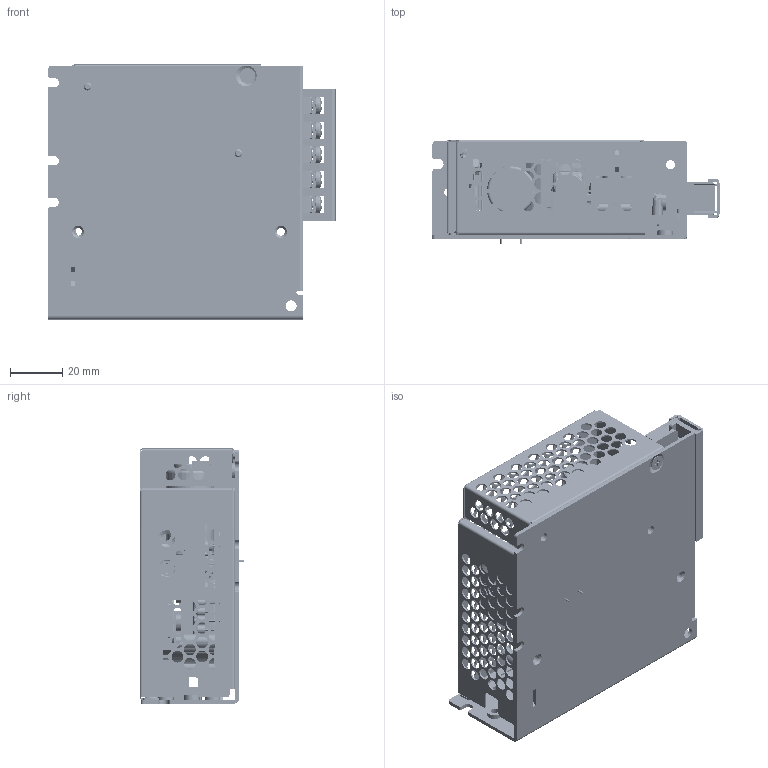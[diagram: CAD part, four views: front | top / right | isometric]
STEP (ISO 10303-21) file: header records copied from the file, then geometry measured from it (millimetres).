
FILE_DESCRIPTION((''),'2;1');
FILE_NAME('NEW_50W_ASM','2014-08-08T',('LEON.YEH'),(''),'PRO/ENGINEER BY PARAMETRIC TECHNOLOGY CORPORATION, 2010280','PRO/ENGINEER BY PARAMETRIC TECHNOLOGY CORPORATION, 2010280','');
FILE_SCHEMA(('CONFIG_CONTROL_DESIGN'));
Products named in the file (44): 5V50W_PWB_AF1; BT24-KO31-07-M201-20120103_AF0; BT25U101; BT25U101_AF0; BT25U101_AF1; BT25U101_AF2; T24P101-20110103; T24P101-20110103_AF0; T24P101-20110103_AF1; T24P101-20110103_AF2; BT24-KO31-07-M101-20120103_AF0; ASSEM1_ASM; T24-KO31-07_ASM; LED_HOLDER; 3103000500_FLAT_L5_1; HSK; HSK_PIN1; HSK_PIN2; HSK_ASM_ASM; 242017601306_Q1; 3105325100-L6; 3105320100-L8; 3110150400__W___ANY; CY1; DIODE_RESET__W___ANY; 200111620071_BD1; 2875187900_FL1; 0910800216_NTC1; 145401210505_C1; CORE-PJ3019_1_AF0; CORE-PJ3019_1_AF1; 3173070000_1_AF0; 3132069600_11_AF0; ASSY-PJ3018_ASM_1_AF0_ASM; 11_AF0; ASSY-PJ3018_ASM_AF1_ASM; C7; F1; VR132; 331609650101_CHASSIS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
Assembly tree (69 placements, depth 4):
  NEW_50W_ASM
    5V50W_PWB_AF1
    T24-KO31-07_ASM
      ASSEM1_ASM
        BT24-KO31-07-M201-20120103_AF0
        BT25U101  x9
        BT25U101_AF0
        BT25U101_AF1
        BT25U101_AF2
        T24P101-20110103  x9
        T24P101-20110103_AF0
        T24P101-20110103_AF1
        T24P101-20110103_AF2
        BT24-KO31-07-M101-20120103_AF0
    LED_HOLDER
    3103000500_FLAT_L5_1  x2
    HSK_ASM_ASM
      HSK
      HSK_PIN1
      HSK_PIN2
    242017601306_Q1  x2
    3105325100-L6  x2
    3105320100-L8  x2
    3110150400__W___ANY  x2
    CY1  x5
    DIODE_RESET__W___ANY
    200111620071_BD1
    2875187900_FL1
    0910800216_NTC1
    145401210505_C1
    ASSY-PJ3018_ASM_AF1_ASM
      ASSY-PJ3018_ASM_1_AF0_ASM
        CORE-PJ3019_1_AF0
        CORE-PJ3019_1_AF1
        3173070000_1_AF0
        3132069600_11_AF0
      11_AF0
    C7
    F1
    VR132
    331609650101_CHASSIS_ASM
      331609650101_CHASSIS
      STUD_6_32_L7_  x2
    NEW_COVER
Bounding box: 110.3 x 40.15 x 98 mm (x, y, z)
Volume: 81331.2 mm3; surface area: 113348.9 mm2
Topology: 71 solids, 71 shells, 6479 faces, 16827 edges, 10519 vertices
Faces by surface type: plane 2919, cylinder 2392, torus 768, bspline 218, cone 98, sphere 64, revolution 20
Entity records: 141735 total; most frequent: CARTESIAN_POINT 40130, DIRECTION 21614, ORIENTED_EDGE 20676, EDGE_CURVE 10338, AXIS2_PLACEMENT_3D 8461, VERTEX_POINT 6310, EDGE_LOOP 5022, VECTOR 4688
